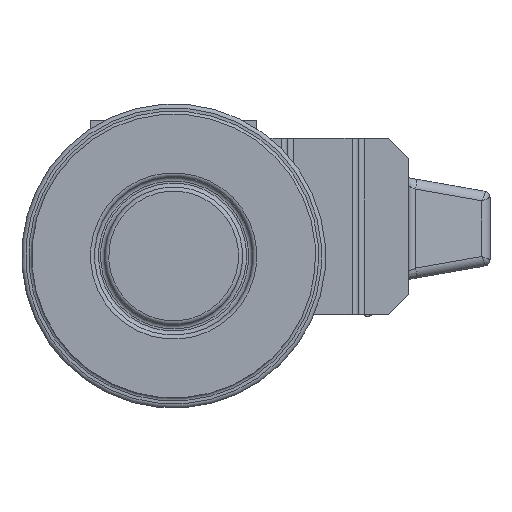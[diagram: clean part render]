
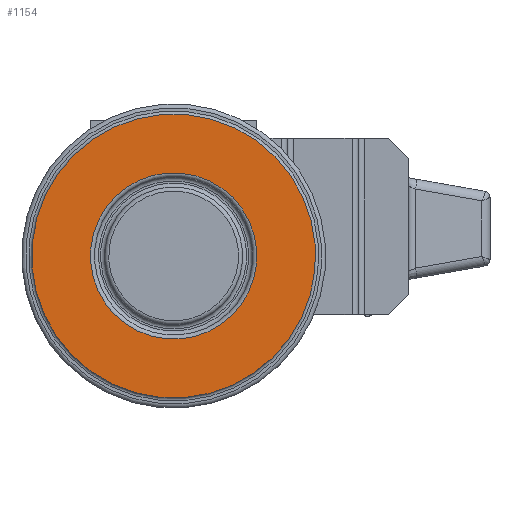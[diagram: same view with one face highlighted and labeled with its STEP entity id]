
A CAD part, front view. The second image highlights one B-rep face of the part: STEP entity #1154.
In plain terms, the highlighted planar face has unit normal (0, -1, 0).
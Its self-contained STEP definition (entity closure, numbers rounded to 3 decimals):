
#1154=ADVANCED_FACE('',(#3773,#3774),#3775,.F.);
#3773=FACE_OUTER_BOUND('',#9265,.T.);
#3774=FACE_BOUND('',#9266,.T.);
#3775=PLANE('',#9267);
#9265=EDGE_LOOP('',(#19013));
#9266=EDGE_LOOP('',(#19014));
#9267=AXIS2_PLACEMENT_3D('',#19015,#19016,#19017);
#19013=ORIENTED_EDGE('',*,*,#23447,.T.);
#19014=ORIENTED_EDGE('',*,*,#24379,.T.);
#19015=CARTESIAN_POINT('',(12.207,-103.601,-103.114));
#19016=DIRECTION('',(0.,1.0,0.));
#19017=DIRECTION('',(0.,0.,-1.0));
#23447=EDGE_CURVE('',#28718,#28718,#28719,.T.);
#24379=EDGE_CURVE('',#30350,#30350,#30351,.T.);
#28718=VERTEX_POINT('',#35261);
#28719=CIRCLE('',#35262,70.0);
#30350=VERTEX_POINT('',#38083);
#30351=CIRCLE('',#38084,41.0);
#35261=CARTESIAN_POINT('',(81.998,-103.601,-97.702));
#35262=AXIS2_PLACEMENT_3D('',#44280,#44281,#44282);
#38083=CARTESIAN_POINT('',(-28.67,-103.601,-106.284));
#38084=AXIS2_PLACEMENT_3D('',#45824,#45825,#45826);
#44280=CARTESIAN_POINT('',(12.207,-103.601,-103.114));
#44281=DIRECTION('',(0.,-1.0,0.));
#44282=DIRECTION('',(0.997,0.,0.077));
#45824=CARTESIAN_POINT('',(12.207,-103.601,-103.114));
#45825=DIRECTION('',(0.,1.0,0.));
#45826=DIRECTION('',(-0.997,0.,-0.077));
